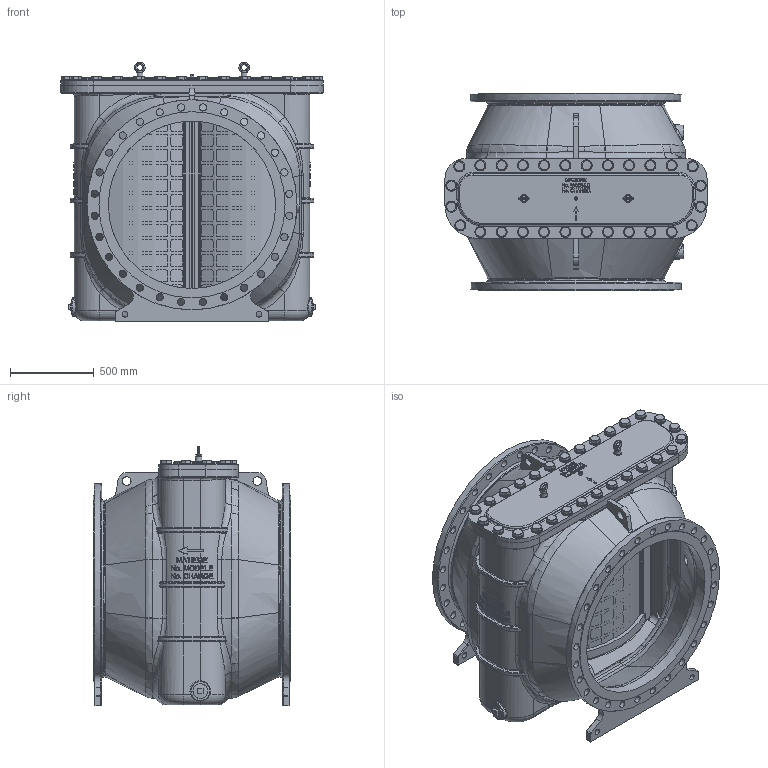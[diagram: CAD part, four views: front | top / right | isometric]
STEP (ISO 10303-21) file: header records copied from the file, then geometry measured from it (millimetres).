
FILE_DESCRIPTION(/* description */ ('AQUA 90-501 - DN 1000 / PN 16'),/* implementation_level */ '2;1');
FILE_NAME(/* name */ 'G:\Doc_Liberes\SymbolesCAD\Modeles_3D\FichierSTP\Aqua\Aqua90501\FAB1000-16RF.stp',/* time_stamp */ '2019-09-03T14:45:24+02:00',/* author */ ('leonardo'),/* organization */ (''),/* preprocessor_version */ 'ST-DEVELOPER v18',/* originating_system */ 'Autodesk Inventor 2020',/* authorisation */ '');
FILE_SCHEMA (('AUTOMOTIVE_DESIGN { 1 0 10303 214 3 1 1 }'));
Length unit declared in the file: millimetre
Products named in the file (15): *CTA90501G110002-KCO-RAL5005; 300575-02; 300572-01; 300573-01; FABT-041; FABT-042; 300571-01; ISO 7089 - 36 - 140 HV; ISO 4017 - M36 x 70; CDN1000; 57576-02; 57576-07; 57507; DIN EN 10242 Bouchon mâle plat T8 3; DIN 580 - M16 x 1.5
Assembly tree (72 placements, depth 3):
  *CTA90501G110002-KCO-RAL5005
    300575-02
    300572-01  x2
    300573-01  x2
      FABT-041
      FABT-042
    300571-01
    ISO 7089 - 36 - 140 HV  x28
    ISO 4017 - M36 x 70  x28
    DIN 580 - M16 x 1.5  x2
    CDN1000
    57576-02
      57576-07
      57507
    DIN EN 10242 Bouchon mâle plat T8 3  x2
Bounding box: 1566 x 1180 x 1549.5 mm (x, y, z)
Volume: 264530680.7 mm3; surface area: 24192100 mm2
Topology: 71 solids, 71 shells, 4754 faces, 12605 edges, 8120 vertices
Faces by surface type: plane 1983, cylinder 1611, bspline 630, torus 247, cone 243, sphere 40
Full cylindrical faces by diameter (mm): 1.6 x1, 2.3 x1, 6.5 x1, 6.92 x1, 8 x1, 13.84 x2, 14 x1, 15 x2, 16 x2, 18.63 x1, 20.955 x1, 31.67 x28, 35 x4, 36 x28, 37 x28, 39 x28, 43 x56, 51.11 x28, 52 x2, 56.66 x2, 66 x28, 84.93 x2, 112 x2, 1000 x2, 1056 x2, 1112 x2, 1255 x2
Entity records: 129407 total; most frequent: CARTESIAN_POINT 47936, ORIENTED_EDGE 17620, DIRECTION 14972, EDGE_CURVE 8810, VERTEX_POINT 5636, AXIS2_PLACEMENT_3D 5453, LINE 4066, VECTOR 4066
